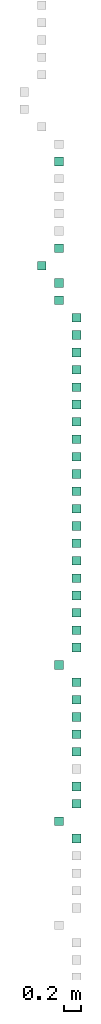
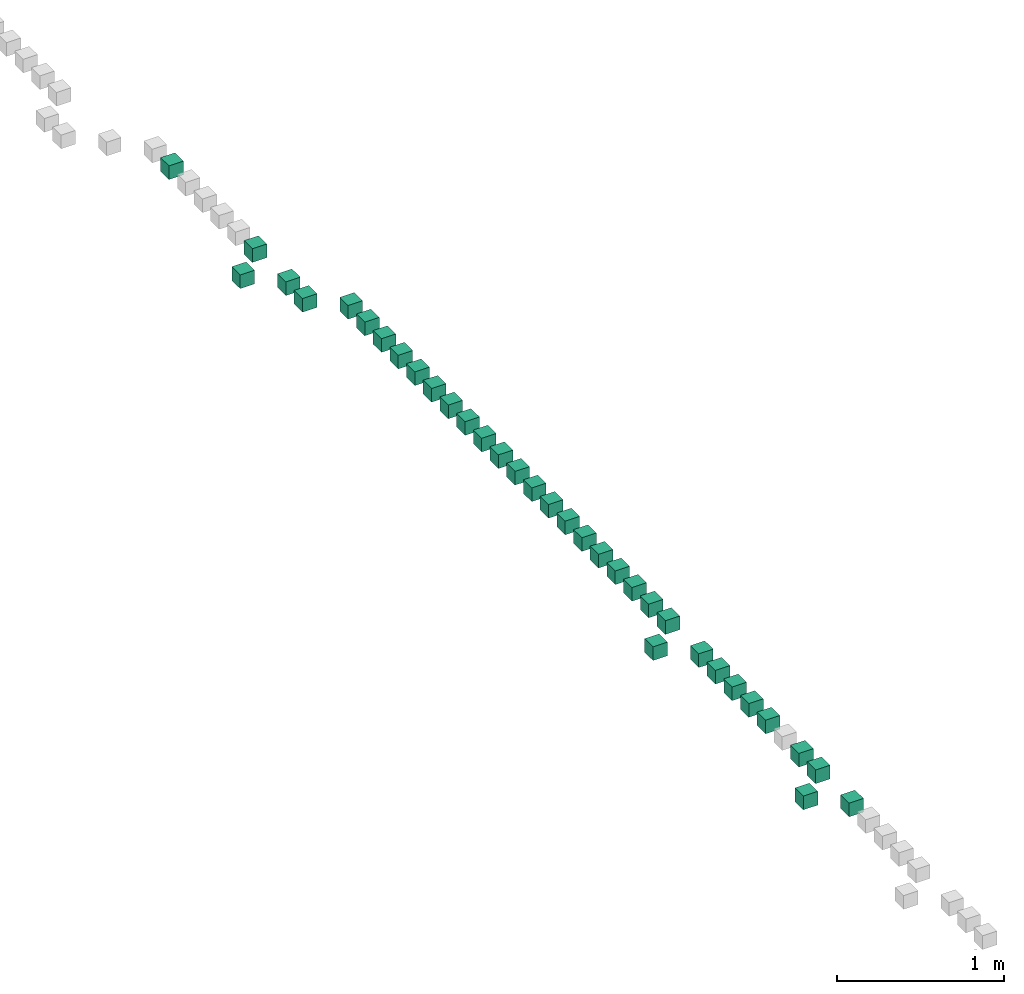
# One storey, part 4 of 7: 1 air terminal box, 1 air to air heat recovery element, 1 alarm, 1 boiler, 1 burner, 1 cable carrier fitting, 1 chiller, 1 coil, 27 other elements.
"""IFC4 building model written with IfcOpenShell, lengths in millimetres."""

from ifc_helpers import new_model, entity, si_unit, converted_unit, derived_unit, direction, frame, origin, origin_2d_with_axis, place, context, subcontext, project, spatial, rectangle, extrude, source, transform, mapped, material, type_object, type_shapes, element, save


model = new_model("IFC4")

# Units and contexts
model_context = context("Model", 3, precision=0.01, world=origin(), true_north=direction((6.12303176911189e-17, 1.0)))
body_context = subcontext(model_context, "Body", "Model", "MODEL_VIEW")
ifc_project = project(units=[si_unit("LENGTHUNIT", "METRE", prefix="MILLI"), si_unit("AREAUNIT", "SQUARE_METRE"), si_unit("VOLUMEUNIT", "CUBIC_METRE"), converted_unit("PLANEANGLEUNIT", "DEGREE", entity("IfcRatioMeasure", 0.0174532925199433), si_unit("PLANEANGLEUNIT", "RADIAN"), dimensions=[0, 0, 0, 0, 0, 0, 0]), si_unit("MASSUNIT", "GRAM", prefix="KILO"), derived_unit("MASSDENSITYUNIT", [(si_unit("MASSUNIT", "GRAM", prefix="KILO"), 1), (si_unit("LENGTHUNIT", "METRE"), -3)]), derived_unit("MOMENTOFINERTIAUNIT", [(si_unit("LENGTHUNIT", "METRE"), 4)]), si_unit("TIMEUNIT", "SECOND"), si_unit("FREQUENCYUNIT", "HERTZ"), si_unit("THERMODYNAMICTEMPERATUREUNIT", "DEGREE_CELSIUS"), derived_unit("THERMALTRANSMITTANCEUNIT", [(si_unit("MASSUNIT", "GRAM", prefix="KILO"), 1), (si_unit("THERMODYNAMICTEMPERATUREUNIT", "KELVIN"), -1), (si_unit("TIMEUNIT", "SECOND"), -3)]), derived_unit("VOLUMETRICFLOWRATEUNIT", [(si_unit("LENGTHUNIT", "METRE"), 3), (si_unit("TIMEUNIT", "SECOND"), -1)]), si_unit("ELECTRICCURRENTUNIT", "AMPERE"), si_unit("ELECTRICVOLTAGEUNIT", "VOLT"), si_unit("POWERUNIT", "WATT"), si_unit("FORCEUNIT", "NEWTON", prefix="KILO"), si_unit("ILLUMINANCEUNIT", "LUX"), si_unit("LUMINOUSFLUXUNIT", "LUMEN"), si_unit("LUMINOUSINTENSITYUNIT", "CANDELA"), derived_unit("USERDEFINED", [(si_unit("MASSUNIT", "GRAM", prefix="KILO"), -1), (si_unit("LENGTHUNIT", "METRE"), -2), (si_unit("TIMEUNIT", "SECOND"), 3), (si_unit("LUMINOUSFLUXUNIT", "LUMEN"), 1)]), derived_unit("LINEARVELOCITYUNIT", [(si_unit("LENGTHUNIT", "METRE"), 1), (si_unit("TIMEUNIT", "SECOND"), -1)]), si_unit("PRESSUREUNIT", "PASCAL"), derived_unit("USERDEFINED", [(si_unit("LENGTHUNIT", "METRE"), -2), (si_unit("MASSUNIT", "GRAM", prefix="KILO"), 1), (si_unit("TIMEUNIT", "SECOND"), -2)]), derived_unit("LINEARFORCEUNIT", [(si_unit("MASSUNIT", "GRAM", prefix="KILO"), 1), (si_unit("LENGTHUNIT", "METRE"), 1), (si_unit("TIMEUNIT", "SECOND"), -2), (si_unit("LENGTHUNIT", "METRE"), -1)]), derived_unit("PLANARFORCEUNIT", [(si_unit("MASSUNIT", "GRAM", prefix="KILO"), 1), (si_unit("LENGTHUNIT", "METRE"), 1), (si_unit("TIMEUNIT", "SECOND"), -2), (si_unit("LENGTHUNIT", "METRE"), -2)])], contexts=[model_context])

# Site, building, storey
site_placement = place(None, origin())
site = spatial("IfcSite", under=ifc_project, at=site_placement, Name="Default", CompositionType="ELEMENT")
building_placement = place(site_placement, origin())
building = spatial("IfcBuilding", under=site, at=building_placement, CompositionType="ELEMENT")
storey_placement = place(building_placement, origin())
storey = spatial("IfcBuildingStorey", under=building, at=storey_placement, Name="Level 1", CompositionType="ELEMENT", Elevation=0.0)

# Distribution flow element
ifc_material = material(Name="<Unnamed>")
distribution_element_type = type_object("IfcDistributionElementType", Name="Generic Ifc Family:Generic Ifc Family", material=ifc_material)
shared_shape_1 = source(origin(), body_context, "Body", "SweptSolid", [
    extrude(rectangle(XDim=100.0, YDim=100.0, at=origin_2d_with_axis()), frame((50.0, 50.0, 0.0), z_axis=(0.0, 0.0, 1.0), x_axis=(0.0, -1.0, 0.0)), (0.0, 0.0, 1.0), 100.0),
])
type_shapes(distribution_element_type, [shared_shape_1])
distribution_flow_element_placement = place(storey_placement, frame((200.0, 17100.0, 0.0), z_axis=(0.0, 0.0, 1.0), x_axis=(0.0, -1.0, 0.0)))
element("IfcDistributionFlowElement", 1, at=distribution_flow_element_placement, inside=storey, type_object=distribution_element_type, material=ifc_material, Name="Generic Ifc Family:Generic Ifc Family", ObjectType="Generic Ifc Family:Generic Ifc Family", context=body_context, shape_type="MappedRepresentation", body=[
    mapped(shared_shape_1, transform((0.0, 0.0, 0.0), scale=1.0)),
])

# Energy conversion device
energy_conversion_device_placement = place(storey_placement, frame((400.0, 16700.0, 0.0), z_axis=(0.0, 0.0, 1.0), x_axis=(0.0, -1.0, 0.0)))
element("IfcEnergyConversionDevice", 2, at=energy_conversion_device_placement, inside=storey, type_object=distribution_element_type, material=ifc_material, Name="Generic Ifc Family:Generic Ifc Family", ObjectType="Generic Ifc Family:Generic Ifc Family", context=body_context, shape_type="MappedRepresentation", body=[
    mapped(shared_shape_1, transform((0.0, 0.0, 0.0), scale=1.0)),
])

# Flow controller
flow_controller_placement = place(storey_placement, frame((400.0, 12500.0, 0.0), z_axis=(0.0, 0.0, 1.0), x_axis=(0.0, -1.0, 0.0)))
element("IfcFlowController", 3, at=flow_controller_placement, inside=storey, type_object=distribution_element_type, material=ifc_material, Name="Generic Ifc Family:Generic Ifc Family", ObjectType="Generic Ifc Family:Generic Ifc Family", context=body_context, shape_type="MappedRepresentation", body=[
    mapped(shared_shape_1, transform((0.0, 0.0, 0.0), scale=1.0)),
])

# Flow fitting
flow_fitting_placement = place(storey_placement, frame((400.0, 10700.0, 0.0), z_axis=(0.0, 0.0, 1.0), x_axis=(0.0, -1.0, 0.0)))
element("IfcFlowFitting", 4, at=flow_fitting_placement, inside=storey, type_object=distribution_element_type, material=ifc_material, Name="Generic Ifc Family:Generic Ifc Family", ObjectType="Generic Ifc Family:Generic Ifc Family", context=body_context, shape_type="MappedRepresentation", body=[
    mapped(shared_shape_1, transform((0.0, 0.0, 0.0), scale=1.0)),
])

# Alarm
alarm_type = type_object("IfcAlarmType", Name="Generic Ifc Family:Generic Ifc Family", PredefinedType="NOTDEFINED", material=ifc_material)
shared_shape_2 = source(origin(), body_context, "Body", "SweptSolid", [
    extrude(rectangle(XDim=100.0, YDim=100.0, at=origin_2d_with_axis()), frame((50.0, 50.0, 0.0), z_axis=(0.0, 0.0, 1.0), x_axis=(0.0, -1.0, 0.0)), (0.0, 0.0, 1.0), 100.0),
])
type_shapes(alarm_type, [shared_shape_2])
alarm_placement = place(storey_placement, frame((400.0, 18300.0, 0.0), z_axis=(0.0, 0.0, 1.0), x_axis=(0.0, -1.0, 0.0)))
element("IfcAlarm", 5, at=alarm_placement, inside=storey, type_object=alarm_type, material=ifc_material, Name="Generic Ifc Family:Generic Ifc Family", ObjectType="Generic Ifc Family:Generic Ifc Family", PredefinedType="NOTDEFINED", context=body_context, shape_type="MappedRepresentation", body=[
    mapped(shared_shape_2, transform((0.0, 0.0, 0.0), scale=1.0)),
])

# Unitary control element
unitary_control_element_type = type_object("IfcUnitaryControlElementType", Name="Generic Ifc Family:Generic Ifc Family", PredefinedType="NOTDEFINED", material=ifc_material)
shared_shape_3 = source(origin(), body_context, "Body", "SweptSolid", [
    extrude(rectangle(XDim=100.0, YDim=100.0, at=origin_2d_with_axis()), frame((50.0, 50.0, 0.0), z_axis=(0.0, 0.0, 1.0), x_axis=(0.0, -1.0, 0.0)), (0.0, 0.0, 1.0), 100.0),
])
type_shapes(unitary_control_element_type, [shared_shape_3])
unitary_control_element_placement = place(storey_placement, frame((400.0, 17300.0, 0.0), z_axis=(0.0, 0.0, 1.0), x_axis=(0.0, -1.0, 0.0)))
element("IfcUnitaryControlElement", 6, at=unitary_control_element_placement, inside=storey, type_object=unitary_control_element_type, material=ifc_material, Name="Generic Ifc Family:Generic Ifc Family", ObjectType="Generic Ifc Family:Generic Ifc Family", PredefinedType="NOTDEFINED", context=body_context, shape_type="MappedRepresentation", body=[
    mapped(shared_shape_3, transform((0.0, 0.0, 0.0), scale=1.0)),
])

# Distribution chamber element
distribution_chamber_element_type = type_object("IfcDistributionChamberElementType", Name="Generic Ifc Family:Generic Ifc Family", PredefinedType="NOTDEFINED", material=ifc_material)
shared_shape_4 = source(origin(), body_context, "Body", "SweptSolid", [
    extrude(rectangle(XDim=100.0, YDim=100.0, at=origin_2d_with_axis()), frame((50.0, 50.0, 0.0), z_axis=(0.0, 0.0, 1.0), x_axis=(0.0, -1.0, 0.0)), (0.0, 0.0, 1.0), 100.0),
])
type_shapes(distribution_chamber_element_type, [shared_shape_4])
distribution_chamber_element_placement = place(storey_placement, frame((400.0, 16900.0, 0.0), z_axis=(0.0, 0.0, 1.0), x_axis=(0.0, -1.0, 0.0)))
element("IfcDistributionChamberElement", 7, at=distribution_chamber_element_placement, inside=storey, type_object=distribution_chamber_element_type, material=ifc_material, Name="Generic Ifc Family:Generic Ifc Family", ObjectType="Generic Ifc Family:Generic Ifc Family", PredefinedType="NOTDEFINED", context=body_context, shape_type="MappedRepresentation", body=[
    mapped(shared_shape_4, transform((0.0, 0.0, 0.0), scale=1.0)),
])

# Air to air heat recovery
air_to_air_heat_recovery_type = type_object("IfcAirToAirHeatRecoveryType", Name="Generic Ifc Family:Generic Ifc Family", PredefinedType="NOTDEFINED", material=ifc_material)
shared_shape_5 = source(origin(), body_context, "Body", "SweptSolid", [
    extrude(rectangle(XDim=100.0, YDim=100.0, at=origin_2d_with_axis()), frame((50.0, 50.0, 0.0), z_axis=(0.0, 0.0, 1.0), x_axis=(0.0, -1.0, 0.0)), (0.0, 0.0, 1.0), 100.0),
])
type_shapes(air_to_air_heat_recovery_type, [shared_shape_5])
air_to_air_heat_recovery_placement = place(storey_placement, frame((600.0, 16500.0, 0.0), z_axis=(0.0, 0.0, 1.0), x_axis=(0.0, -1.0, 0.0)))
element("IfcAirToAirHeatRecovery", 8, at=air_to_air_heat_recovery_placement, inside=storey, type_object=air_to_air_heat_recovery_type, material=ifc_material, Name="Generic Ifc Family:Generic Ifc Family", ObjectType="Generic Ifc Family:Generic Ifc Family", PredefinedType="NOTDEFINED", context=body_context, shape_type="MappedRepresentation", body=[
    mapped(shared_shape_5, transform((0.0, 0.0, 0.0), scale=1.0)),
])

# Boiler
boiler_type = type_object("IfcBoilerType", Name="Generic Ifc Family:Generic Ifc Family", PredefinedType="NOTDEFINED", material=ifc_material)
shared_shape_6 = source(origin(), body_context, "Body", "SweptSolid", [
    extrude(rectangle(XDim=100.0, YDim=100.0, at=origin_2d_with_axis()), frame((50.0, 50.0, 0.0), z_axis=(0.0, 0.0, 1.0), x_axis=(0.0, -1.0, 0.0)), (0.0, 0.0, 1.0), 100.0),
])
type_shapes(boiler_type, [shared_shape_6])
boiler_placement = place(storey_placement, frame((600.0, 16300.0, 0.0), z_axis=(0.0, 0.0, 1.0), x_axis=(0.0, -1.0, 0.0)))
element("IfcBoiler", 9, at=boiler_placement, inside=storey, type_object=boiler_type, material=ifc_material, Name="Generic Ifc Family:Generic Ifc Family", ObjectType="Generic Ifc Family:Generic Ifc Family", PredefinedType="NOTDEFINED", context=body_context, shape_type="MappedRepresentation", body=[
    mapped(shared_shape_6, transform((0.0, 0.0, 0.0), scale=1.0)),
])

# Burner
burner_type = type_object("IfcBurnerType", Name="Generic Ifc Family:Generic Ifc Family", PredefinedType="NOTDEFINED", material=ifc_material)
shared_shape_7 = source(origin(), body_context, "Body", "SweptSolid", [
    extrude(rectangle(XDim=100.0, YDim=100.0, at=origin_2d_with_axis()), frame((50.0, 50.0, 0.0), z_axis=(0.0, 0.0, 1.0), x_axis=(0.0, -1.0, 0.0)), (0.0, 0.0, 1.0), 100.0),
])
type_shapes(burner_type, [shared_shape_7])
burner_placement = place(storey_placement, frame((600.0, 16100.0, 0.0), z_axis=(0.0, 0.0, 1.0), x_axis=(0.0, -1.0, 0.0)))
element("IfcBurner", 10, at=burner_placement, inside=storey, type_object=burner_type, material=ifc_material, Name="Generic Ifc Family:Generic Ifc Family", ObjectType="Generic Ifc Family:Generic Ifc Family", PredefinedType="NOTDEFINED", context=body_context, shape_type="MappedRepresentation", body=[
    mapped(shared_shape_7, transform((0.0, 0.0, 0.0), scale=1.0)),
])

# Chiller
chiller_type = type_object("IfcChillerType", Name="Generic Ifc Family:Generic Ifc Family", PredefinedType="NOTDEFINED", material=ifc_material)
shared_shape_8 = source(origin(), body_context, "Body", "SweptSolid", [
    extrude(rectangle(XDim=100.0, YDim=100.0, at=origin_2d_with_axis()), frame((50.0, 50.0, 0.0), z_axis=(0.0, 0.0, 1.0), x_axis=(0.0, -1.0, 0.0)), (0.0, 0.0, 1.0), 100.0),
])
type_shapes(chiller_type, [shared_shape_8])
chiller_placement = place(storey_placement, frame((600.0, 15900.0, 0.0), z_axis=(0.0, 0.0, 1.0), x_axis=(0.0, -1.0, 0.0)))
element("IfcChiller", 11, at=chiller_placement, inside=storey, type_object=chiller_type, material=ifc_material, Name="Generic Ifc Family:Generic Ifc Family", ObjectType="Generic Ifc Family:Generic Ifc Family", PredefinedType="NOTDEFINED", context=body_context, shape_type="MappedRepresentation", body=[
    mapped(shared_shape_8, transform((0.0, 0.0, 0.0), scale=1.0)),
])

# Coil
coil_type = type_object("IfcCoilType", Name="Generic Ifc Family:Generic Ifc Family", PredefinedType="NOTDEFINED", material=ifc_material)
shared_shape_9 = source(origin(), body_context, "Body", "SweptSolid", [
    extrude(rectangle(XDim=100.0, YDim=100.0, at=origin_2d_with_axis()), frame((50.0, 50.0, 0.0), z_axis=(0.0, 0.0, 1.0), x_axis=(0.0, -1.0, 0.0)), (0.0, 0.0, 1.0), 100.0),
])
type_shapes(coil_type, [shared_shape_9])
coil_placement = place(storey_placement, frame((600.0, 15700.0, 0.0), z_axis=(0.0, 0.0, 1.0), x_axis=(0.0, -1.0, 0.0)))
element("IfcCoil", 12, at=coil_placement, inside=storey, type_object=coil_type, material=ifc_material, Name="Generic Ifc Family:Generic Ifc Family", ObjectType="Generic Ifc Family:Generic Ifc Family", PredefinedType="NOTDEFINED", context=body_context, shape_type="MappedRepresentation", body=[
    mapped(shared_shape_9, transform((0.0, 0.0, 0.0), scale=1.0)),
])

# Condenser
condenser_type = type_object("IfcCondenserType", Name="Generic Ifc Family:Generic Ifc Family", PredefinedType="NOTDEFINED", material=ifc_material)
shared_shape_10 = source(origin(), body_context, "Body", "SweptSolid", [
    extrude(rectangle(XDim=100.0, YDim=100.0, at=origin_2d_with_axis()), frame((50.0, 50.0, 0.0), z_axis=(0.0, 0.0, 1.0), x_axis=(0.0, -1.0, 0.0)), (0.0, 0.0, 1.0), 100.0),
])
type_shapes(condenser_type, [shared_shape_10])
condenser_placement = place(storey_placement, frame((600.0, 15500.0, 0.0), z_axis=(0.0, 0.0, 1.0), x_axis=(0.0, -1.0, 0.0)))
element("IfcCondenser", 13, at=condenser_placement, inside=storey, type_object=condenser_type, material=ifc_material, Name="Generic Ifc Family:Generic Ifc Family", ObjectType="Generic Ifc Family:Generic Ifc Family", PredefinedType="NOTDEFINED", context=body_context, shape_type="MappedRepresentation", body=[
    mapped(shared_shape_10, transform((0.0, 0.0, 0.0), scale=1.0)),
])

# Cooled beam
cooled_beam_type = type_object("IfcCooledBeamType", Name="Generic Ifc Family:Generic Ifc Family", PredefinedType="NOTDEFINED", material=ifc_material)
shared_shape_11 = source(origin(), body_context, "Body", "SweptSolid", [
    extrude(rectangle(XDim=100.0, YDim=100.0, at=origin_2d_with_axis()), frame((50.0, 50.0, 0.0), z_axis=(0.0, 0.0, 1.0), x_axis=(0.0, -1.0, 0.0)), (0.0, 0.0, 1.0), 100.0),
])
type_shapes(cooled_beam_type, [shared_shape_11])
cooled_beam_placement = place(storey_placement, frame((600.0, 15300.0, 0.0), z_axis=(0.0, 0.0, 1.0), x_axis=(0.0, -1.0, 0.0)))
element("IfcCooledBeam", 14, at=cooled_beam_placement, inside=storey, type_object=cooled_beam_type, material=ifc_material, Name="Generic Ifc Family:Generic Ifc Family", ObjectType="Generic Ifc Family:Generic Ifc Family", PredefinedType="NOTDEFINED", context=body_context, shape_type="MappedRepresentation", body=[
    mapped(shared_shape_11, transform((0.0, 0.0, 0.0), scale=1.0)),
])

# Cooling tower
cooling_tower_type = type_object("IfcCoolingTowerType", Name="Generic Ifc Family:Generic Ifc Family", PredefinedType="NOTDEFINED", material=ifc_material)
shared_shape_12 = source(origin(), body_context, "Body", "SweptSolid", [
    extrude(rectangle(XDim=100.0, YDim=100.0, at=origin_2d_with_axis()), frame((50.0, 50.0, 0.0), z_axis=(0.0, 0.0, 1.0), x_axis=(0.0, -1.0, 0.0)), (0.0, 0.0, 1.0), 100.0),
])
type_shapes(cooling_tower_type, [shared_shape_12])
cooling_tower_placement = place(storey_placement, frame((600.0, 15100.0, 0.0), z_axis=(0.0, 0.0, 1.0), x_axis=(0.0, -1.0, 0.0)))
element("IfcCoolingTower", 15, at=cooling_tower_placement, inside=storey, type_object=cooling_tower_type, material=ifc_material, Name="Generic Ifc Family:Generic Ifc Family", ObjectType="Generic Ifc Family:Generic Ifc Family", PredefinedType="NOTDEFINED", context=body_context, shape_type="MappedRepresentation", body=[
    mapped(shared_shape_12, transform((0.0, 0.0, 0.0), scale=1.0)),
])

# Electric generator
electric_generator_type = type_object("IfcElectricGeneratorType", Name="Generic Ifc Family:Generic Ifc Family", PredefinedType="NOTDEFINED", material=ifc_material)
shared_shape_13 = source(origin(), body_context, "Body", "SweptSolid", [
    extrude(rectangle(XDim=100.0, YDim=100.0, at=origin_2d_with_axis()), frame((50.0, 50.0, 0.0), z_axis=(0.0, 0.0, 1.0), x_axis=(0.0, -1.0, 0.0)), (0.0, 0.0, 1.0), 100.0),
])
type_shapes(electric_generator_type, [shared_shape_13])
electric_generator_placement = place(storey_placement, frame((600.0, 14900.0, 0.0), z_axis=(0.0, 0.0, 1.0), x_axis=(0.0, -1.0, 0.0)))
element("IfcElectricGenerator", 16, at=electric_generator_placement, inside=storey, type_object=electric_generator_type, material=ifc_material, Name="Generic Ifc Family:Generic Ifc Family", ObjectType="Generic Ifc Family:Generic Ifc Family", PredefinedType="NOTDEFINED", context=body_context, shape_type="MappedRepresentation", body=[
    mapped(shared_shape_13, transform((0.0, 0.0, 0.0), scale=1.0)),
])

# Electric motor
electric_motor_type = type_object("IfcElectricMotorType", Name="Generic Ifc Family:Generic Ifc Family", PredefinedType="NOTDEFINED", material=ifc_material)
shared_shape_14 = source(origin(), body_context, "Body", "SweptSolid", [
    extrude(rectangle(XDim=100.0, YDim=100.0, at=origin_2d_with_axis()), frame((50.0, 50.0, 0.0), z_axis=(0.0, 0.0, 1.0), x_axis=(0.0, -1.0, 0.0)), (0.0, 0.0, 1.0), 100.0),
])
type_shapes(electric_motor_type, [shared_shape_14])
electric_motor_placement = place(storey_placement, frame((600.0, 14700.0, 0.0), z_axis=(0.0, 0.0, 1.0), x_axis=(0.0, -1.0, 0.0)))
element("IfcElectricMotor", 17, at=electric_motor_placement, inside=storey, type_object=electric_motor_type, material=ifc_material, Name="Generic Ifc Family:Generic Ifc Family", ObjectType="Generic Ifc Family:Generic Ifc Family", PredefinedType="NOTDEFINED", context=body_context, shape_type="MappedRepresentation", body=[
    mapped(shared_shape_14, transform((0.0, 0.0, 0.0), scale=1.0)),
])

# Engine
engine_type = type_object("IfcEngineType", Name="Generic Ifc Family:Generic Ifc Family", PredefinedType="NOTDEFINED", material=ifc_material)
shared_shape_15 = source(origin(), body_context, "Body", "SweptSolid", [
    extrude(rectangle(XDim=100.0, YDim=100.0, at=origin_2d_with_axis()), frame((50.0, 50.0, 0.0), z_axis=(0.0, 0.0, 1.0), x_axis=(0.0, -1.0, 0.0)), (0.0, 0.0, 1.0), 100.0),
])
type_shapes(engine_type, [shared_shape_15])
engine_placement = place(storey_placement, frame((600.0, 14500.0, 0.0), z_axis=(0.0, 0.0, 1.0), x_axis=(0.0, -1.0, 0.0)))
element("IfcEngine", 18, at=engine_placement, inside=storey, type_object=engine_type, material=ifc_material, Name="Generic Ifc Family:Generic Ifc Family", ObjectType="Generic Ifc Family:Generic Ifc Family", PredefinedType="NOTDEFINED", context=body_context, shape_type="MappedRepresentation", body=[
    mapped(shared_shape_15, transform((0.0, 0.0, 0.0), scale=1.0)),
])

# Evaporative cooler
evaporative_cooler_type = type_object("IfcEvaporativeCoolerType", Name="Generic Ifc Family:Generic Ifc Family", PredefinedType="NOTDEFINED", material=ifc_material)
shared_shape_16 = source(origin(), body_context, "Body", "SweptSolid", [
    extrude(rectangle(XDim=100.0, YDim=100.0, at=origin_2d_with_axis()), frame((50.0, 50.0, 0.0), z_axis=(0.0, 0.0, 1.0), x_axis=(0.0, -1.0, 0.0)), (0.0, 0.0, 1.0), 100.0),
])
type_shapes(evaporative_cooler_type, [shared_shape_16])
evaporative_cooler_placement = place(storey_placement, frame((600.0, 14300.0, 0.0), z_axis=(0.0, 0.0, 1.0), x_axis=(0.0, -1.0, 0.0)))
element("IfcEvaporativeCooler", 19, at=evaporative_cooler_placement, inside=storey, type_object=evaporative_cooler_type, material=ifc_material, Name="Generic Ifc Family:Generic Ifc Family", ObjectType="Generic Ifc Family:Generic Ifc Family", PredefinedType="NOTDEFINED", context=body_context, shape_type="MappedRepresentation", body=[
    mapped(shared_shape_16, transform((0.0, 0.0, 0.0), scale=1.0)),
])

# Evaporator
evaporator_type = type_object("IfcEvaporatorType", Name="Generic Ifc Family:Generic Ifc Family", PredefinedType="NOTDEFINED", material=ifc_material)
shared_shape_17 = source(origin(), body_context, "Body", "SweptSolid", [
    extrude(rectangle(XDim=100.0, YDim=100.0, at=origin_2d_with_axis()), frame((50.0, 50.0, 0.0), z_axis=(0.0, 0.0, 1.0), x_axis=(0.0, -1.0, 0.0)), (0.0, 0.0, 1.0), 100.0),
])
type_shapes(evaporator_type, [shared_shape_17])
evaporator_placement = place(storey_placement, frame((600.0, 14100.0, 0.0), z_axis=(0.0, 0.0, 1.0), x_axis=(0.0, -1.0, 0.0)))
element("IfcEvaporator", 20, at=evaporator_placement, inside=storey, type_object=evaporator_type, material=ifc_material, Name="Generic Ifc Family:Generic Ifc Family", ObjectType="Generic Ifc Family:Generic Ifc Family", PredefinedType="NOTDEFINED", context=body_context, shape_type="MappedRepresentation", body=[
    mapped(shared_shape_17, transform((0.0, 0.0, 0.0), scale=1.0)),
])

# Heat exchanger
heat_exchanger_type = type_object("IfcHeatExchangerType", Name="Generic Ifc Family:Generic Ifc Family", PredefinedType="NOTDEFINED", material=ifc_material)
shared_shape_18 = source(origin(), body_context, "Body", "SweptSolid", [
    extrude(rectangle(XDim=100.0, YDim=100.0, at=origin_2d_with_axis()), frame((50.0, 50.0, 0.0), z_axis=(0.0, 0.0, 1.0), x_axis=(0.0, -1.0, 0.0)), (0.0, 0.0, 1.0), 100.0),
])
type_shapes(heat_exchanger_type, [shared_shape_18])
heat_exchanger_placement = place(storey_placement, frame((600.0, 13900.0, 0.0), z_axis=(0.0, 0.0, 1.0), x_axis=(0.0, -1.0, 0.0)))
element("IfcHeatExchanger", 21, at=heat_exchanger_placement, inside=storey, type_object=heat_exchanger_type, material=ifc_material, Name="Generic Ifc Family:Generic Ifc Family", ObjectType="Generic Ifc Family:Generic Ifc Family", PredefinedType="NOTDEFINED", context=body_context, shape_type="MappedRepresentation", body=[
    mapped(shared_shape_18, transform((0.0, 0.0, 0.0), scale=1.0)),
])

# Humidifier
humidifier_type = type_object("IfcHumidifierType", Name="Generic Ifc Family:Generic Ifc Family", PredefinedType="NOTDEFINED", material=ifc_material)
shared_shape_19 = source(origin(), body_context, "Body", "SweptSolid", [
    extrude(rectangle(XDim=100.0, YDim=100.0, at=origin_2d_with_axis()), frame((50.0, 50.0, 0.0), z_axis=(0.0, 0.0, 1.0), x_axis=(0.0, -1.0, 0.0)), (0.0, 0.0, 1.0), 100.0),
])
type_shapes(humidifier_type, [shared_shape_19])
humidifier_placement = place(storey_placement, frame((600.0, 13700.0, 0.0), z_axis=(0.0, 0.0, 1.0), x_axis=(0.0, -1.0, 0.0)))
element("IfcHumidifier", 22, at=humidifier_placement, inside=storey, type_object=humidifier_type, material=ifc_material, Name="Generic Ifc Family:Generic Ifc Family", ObjectType="Generic Ifc Family:Generic Ifc Family", PredefinedType="NOTDEFINED", context=body_context, shape_type="MappedRepresentation", body=[
    mapped(shared_shape_19, transform((0.0, 0.0, 0.0), scale=1.0)),
])

# Motor connection
motor_connection_type = type_object("IfcMotorConnectionType", Name="Generic Ifc Family:Generic Ifc Family", PredefinedType="NOTDEFINED", material=ifc_material)
shared_shape_20 = source(origin(), body_context, "Body", "SweptSolid", [
    extrude(rectangle(XDim=100.0, YDim=100.0, at=origin_2d_with_axis()), frame((50.0, 50.0, 0.0), z_axis=(0.0, 0.0, 1.0), x_axis=(0.0, -1.0, 0.0)), (0.0, 0.0, 1.0), 100.0),
])
type_shapes(motor_connection_type, [shared_shape_20])
motor_connection_placement = place(storey_placement, frame((600.0, 13500.0, 0.0), z_axis=(0.0, 0.0, 1.0), x_axis=(0.0, -1.0, 0.0)))
element("IfcMotorConnection", 23, at=motor_connection_placement, inside=storey, type_object=motor_connection_type, material=ifc_material, Name="Generic Ifc Family:Generic Ifc Family", ObjectType="Generic Ifc Family:Generic Ifc Family", PredefinedType="NOTDEFINED", context=body_context, shape_type="MappedRepresentation", body=[
    mapped(shared_shape_20, transform((0.0, 0.0, 0.0), scale=1.0)),
])

# Solar device
solar_device_type = type_object("IfcSolarDeviceType", Name="Generic Ifc Family:Generic Ifc Family", PredefinedType="NOTDEFINED", material=ifc_material)
shared_shape_21 = source(origin(), body_context, "Body", "SweptSolid", [
    extrude(rectangle(XDim=100.0, YDim=100.0, at=origin_2d_with_axis()), frame((50.0, 50.0, 0.0), z_axis=(0.0, 0.0, 1.0), x_axis=(0.0, -1.0, 0.0)), (0.0, 0.0, 1.0), 100.0),
])
type_shapes(solar_device_type, [shared_shape_21])
solar_device_placement = place(storey_placement, frame((600.0, 13300.0, 0.0), z_axis=(0.0, 0.0, 1.0), x_axis=(0.0, -1.0, 0.0)))
element("IfcSolarDevice", 24, at=solar_device_placement, inside=storey, type_object=solar_device_type, material=ifc_material, Name="Generic Ifc Family:Generic Ifc Family", ObjectType="Generic Ifc Family:Generic Ifc Family", PredefinedType="NOTDEFINED", context=body_context, shape_type="MappedRepresentation", body=[
    mapped(shared_shape_21, transform((0.0, 0.0, 0.0), scale=1.0)),
])

# Transformer
transformer_type = type_object("IfcTransformerType", Name="Generic Ifc Family:Generic Ifc Family", PredefinedType="NOTDEFINED", material=ifc_material)
shared_shape_22 = source(origin(), body_context, "Body", "SweptSolid", [
    extrude(rectangle(XDim=100.0, YDim=100.0, at=origin_2d_with_axis()), frame((50.0, 50.0, 0.0), z_axis=(0.0, 0.0, 1.0), x_axis=(0.0, -1.0, 0.0)), (0.0, 0.0, 1.0), 100.0),
])
type_shapes(transformer_type, [shared_shape_22])
transformer_placement = place(storey_placement, frame((600.0, 13100.0, 0.0), z_axis=(0.0, 0.0, 1.0), x_axis=(0.0, -1.0, 0.0)))
element("IfcTransformer", 25, at=transformer_placement, inside=storey, type_object=transformer_type, material=ifc_material, Name="Generic Ifc Family:Generic Ifc Family", ObjectType="Generic Ifc Family:Generic Ifc Family", PredefinedType="NOTDEFINED", context=body_context, shape_type="MappedRepresentation", body=[
    mapped(shared_shape_22, transform((0.0, 0.0, 0.0), scale=1.0)),
])

# Tube bundle
tube_bundle_type = type_object("IfcTubeBundleType", Name="Generic Ifc Family:Generic Ifc Family", PredefinedType="NOTDEFINED", material=ifc_material)
shared_shape_23 = source(origin(), body_context, "Body", "SweptSolid", [
    extrude(rectangle(XDim=100.0, YDim=100.0, at=origin_2d_with_axis()), frame((50.0, 50.0, 0.0), z_axis=(0.0, 0.0, 1.0), x_axis=(0.0, -1.0, 0.0)), (0.0, 0.0, 1.0), 100.0),
])
type_shapes(tube_bundle_type, [shared_shape_23])
tube_bundle_placement = place(storey_placement, frame((600.0, 12900.0, 0.0), z_axis=(0.0, 0.0, 1.0), x_axis=(0.0, -1.0, 0.0)))
element("IfcTubeBundle", 26, at=tube_bundle_placement, inside=storey, type_object=tube_bundle_type, material=ifc_material, Name="Generic Ifc Family:Generic Ifc Family", ObjectType="Generic Ifc Family:Generic Ifc Family", PredefinedType="NOTDEFINED", context=body_context, shape_type="MappedRepresentation", body=[
    mapped(shared_shape_23, transform((0.0, 0.0, 0.0), scale=1.0)),
])

# Unitary equipment
unitary_equipment_type = type_object("IfcUnitaryEquipmentType", Name="Generic Ifc Family:Generic Ifc Family", PredefinedType="NOTDEFINED", material=ifc_material)
shared_shape_24 = source(origin(), body_context, "Body", "SweptSolid", [
    extrude(rectangle(XDim=100.0, YDim=100.0, at=origin_2d_with_axis()), frame((50.0, 50.0, 0.0), z_axis=(0.0, 0.0, 1.0), x_axis=(0.0, -1.0, 0.0)), (0.0, 0.0, 1.0), 100.0),
])
type_shapes(unitary_equipment_type, [shared_shape_24])
unitary_equipment_placement = place(storey_placement, frame((600.0, 12700.0, 0.0), z_axis=(0.0, 0.0, 1.0), x_axis=(0.0, -1.0, 0.0)))
element("IfcUnitaryEquipment", 27, at=unitary_equipment_placement, inside=storey, type_object=unitary_equipment_type, material=ifc_material, Name="Generic Ifc Family:Generic Ifc Family", ObjectType="Generic Ifc Family:Generic Ifc Family", PredefinedType="NOTDEFINED", context=body_context, shape_type="MappedRepresentation", body=[
    mapped(shared_shape_24, transform((0.0, 0.0, 0.0), scale=1.0)),
])

# Air terminal box
air_terminal_box_type = type_object("IfcAirTerminalBoxType", Name="Generic Ifc Family:Generic Ifc Family", PredefinedType="NOTDEFINED", material=ifc_material)
shared_shape_25 = source(origin(), body_context, "Body", "SweptSolid", [
    extrude(rectangle(XDim=100.0, YDim=100.0, at=origin_2d_with_axis()), frame((50.0, 50.0, 0.0), z_axis=(0.0, 0.0, 1.0), x_axis=(0.0, -1.0, 0.0)), (0.0, 0.0, 1.0), 100.0),
])
type_shapes(air_terminal_box_type, [shared_shape_25])
air_terminal_box_placement = place(storey_placement, frame((600.0, 12300.0, 0.0), z_axis=(0.0, 0.0, 1.0), x_axis=(0.0, -1.0, 0.0)))
element("IfcAirTerminalBox", 28, at=air_terminal_box_placement, inside=storey, type_object=air_terminal_box_type, material=ifc_material, Name="Generic Ifc Family:Generic Ifc Family", ObjectType="Generic Ifc Family:Generic Ifc Family", PredefinedType="NOTDEFINED", context=body_context, shape_type="MappedRepresentation", body=[
    mapped(shared_shape_25, transform((0.0, 0.0, 0.0), scale=1.0)),
])

# Damper
damper_type = type_object("IfcDamperType", Name="Generic Ifc Family:Generic Ifc Family", PredefinedType="NOTDEFINED", material=ifc_material)
shared_shape_26 = source(origin(), body_context, "Body", "SweptSolid", [
    extrude(rectangle(XDim=100.0, YDim=100.0, at=origin_2d_with_axis()), frame((50.0, 50.0, 0.0), z_axis=(0.0, 0.0, 1.0), x_axis=(0.0, -1.0, 0.0)), (0.0, 0.0, 1.0), 100.0),
])
type_shapes(damper_type, [shared_shape_26])
damper_placement = place(storey_placement, frame((600.0, 12100.0, 0.0), z_axis=(0.0, 0.0, 1.0), x_axis=(0.0, -1.0, 0.0)))
element("IfcDamper", 29, at=damper_placement, inside=storey, type_object=damper_type, material=ifc_material, Name="Generic Ifc Family:Generic Ifc Family", ObjectType="Generic Ifc Family:Generic Ifc Family", PredefinedType="NOTDEFINED", context=body_context, shape_type="MappedRepresentation", body=[
    mapped(shared_shape_26, transform((0.0, 0.0, 0.0), scale=1.0)),
])

# Electric distribution board
electric_distribution_board_type = type_object("IfcElectricDistributionBoardType", Name="Generic Ifc Family:Generic Ifc Family", PredefinedType="NOTDEFINED", material=ifc_material)
shared_shape_27 = source(origin(), body_context, "Body", "SweptSolid", [
    extrude(rectangle(XDim=100.0, YDim=100.0, at=origin_2d_with_axis()), frame((50.0, 50.0, 0.0), z_axis=(0.0, 0.0, 1.0), x_axis=(0.0, -1.0, 0.0)), (0.0, 0.0, 1.0), 100.0),
])
type_shapes(electric_distribution_board_type, [shared_shape_27])
electric_distribution_board_placement = place(storey_placement, frame((600.0, 11900.0, 0.0), z_axis=(0.0, 0.0, 1.0), x_axis=(0.0, -1.0, 0.0)))
element("IfcElectricDistributionBoard", 30, at=electric_distribution_board_placement, inside=storey, type_object=electric_distribution_board_type, material=ifc_material, Name="Generic Ifc Family:Generic Ifc Family", ObjectType="Generic Ifc Family:Generic Ifc Family", PredefinedType="NOTDEFINED", context=body_context, shape_type="MappedRepresentation", body=[
    mapped(shared_shape_27, transform((0.0, 0.0, 0.0), scale=1.0)),
])

# Electric time control
electric_time_control_type = type_object("IfcElectricTimeControlType", Name="Generic Ifc Family:Generic Ifc Family", PredefinedType="NOTDEFINED", material=ifc_material)
shared_shape_28 = source(origin(), body_context, "Body", "SweptSolid", [
    extrude(rectangle(XDim=100.0, YDim=100.0, at=origin_2d_with_axis()), frame((50.0, 50.0, 0.0), z_axis=(0.0, 0.0, 1.0), x_axis=(0.0, -1.0, 0.0)), (0.0, 0.0, 1.0), 100.0),
])
type_shapes(electric_time_control_type, [shared_shape_28])
electric_time_control_placement = place(storey_placement, frame((600.0, 11700.0, 0.0), z_axis=(0.0, 0.0, 1.0), x_axis=(0.0, -1.0, 0.0)))
element("IfcElectricTimeControl", 31, at=electric_time_control_placement, inside=storey, type_object=electric_time_control_type, material=ifc_material, Name="Generic Ifc Family:Generic Ifc Family", ObjectType="Generic Ifc Family:Generic Ifc Family", PredefinedType="NOTDEFINED", context=body_context, shape_type="MappedRepresentation", body=[
    mapped(shared_shape_28, transform((0.0, 0.0, 0.0), scale=1.0)),
])

# Flow meter
flow_meter_type = type_object("IfcFlowMeterType", Name="Generic Ifc Family:Generic Ifc Family", PredefinedType="NOTDEFINED", material=ifc_material)
shared_shape_29 = source(origin(), body_context, "Body", "SweptSolid", [
    extrude(rectangle(XDim=100.0, YDim=100.0, at=origin_2d_with_axis()), frame((50.0, 50.0, 0.0), z_axis=(0.0, 0.0, 1.0), x_axis=(0.0, -1.0, 0.0)), (0.0, 0.0, 1.0), 100.0),
])
type_shapes(flow_meter_type, [shared_shape_29])
flow_meter_placement = place(storey_placement, frame((600.0, 11500.0, 0.0), z_axis=(0.0, 0.0, 1.0), x_axis=(0.0, -1.0, 0.0)))
element("IfcFlowMeter", 32, at=flow_meter_placement, inside=storey, type_object=flow_meter_type, material=ifc_material, Name="Generic Ifc Family:Generic Ifc Family", ObjectType="Generic Ifc Family:Generic Ifc Family", PredefinedType="NOTDEFINED", context=body_context, shape_type="MappedRepresentation", body=[
    mapped(shared_shape_29, transform((0.0, 0.0, 0.0), scale=1.0)),
])

# Switching device
switching_device_type = type_object("IfcSwitchingDeviceType", Name="Generic Ifc Family:Generic Ifc Family", PredefinedType="NOTDEFINED", material=ifc_material)
shared_shape_30 = source(origin(), body_context, "Body", "SweptSolid", [
    extrude(rectangle(XDim=100.0, YDim=100.0, at=origin_2d_with_axis()), frame((50.0, 50.0, 0.0), z_axis=(0.0, 0.0, 1.0), x_axis=(0.0, -1.0, 0.0)), (0.0, 0.0, 1.0), 100.0),
])
type_shapes(switching_device_type, [shared_shape_30])
switching_device_placement = place(storey_placement, frame((600.0, 11100.0, 0.0), z_axis=(0.0, 0.0, 1.0), x_axis=(0.0, -1.0, 0.0)))
element("IfcSwitchingDevice", 33, at=switching_device_placement, inside=storey, type_object=switching_device_type, material=ifc_material, Name="Generic Ifc Family:Generic Ifc Family", ObjectType="Generic Ifc Family:Generic Ifc Family", PredefinedType="NOTDEFINED", context=body_context, shape_type="MappedRepresentation", body=[
    mapped(shared_shape_30, transform((0.0, 0.0, 0.0), scale=1.0)),
])

# Valve
valve_type = type_object("IfcValveType", Name="Generic Ifc Family:Generic Ifc Family", PredefinedType="NOTDEFINED", material=ifc_material)
shared_shape_31 = source(origin(), body_context, "Body", "SweptSolid", [
    extrude(rectangle(XDim=100.0, YDim=100.0, at=origin_2d_with_axis()), frame((50.0, 50.0, 0.0), z_axis=(0.0, 0.0, 1.0), x_axis=(0.0, -1.0, 0.0)), (0.0, 0.0, 1.0), 100.0),
])
type_shapes(valve_type, [shared_shape_31])
valve_placement = place(storey_placement, frame((600.0, 10900.0, 0.0), z_axis=(0.0, 0.0, 1.0), x_axis=(0.0, -1.0, 0.0)))
element("IfcValve", 34, at=valve_placement, inside=storey, type_object=valve_type, material=ifc_material, Name="Generic Ifc Family:Generic Ifc Family", ObjectType="Generic Ifc Family:Generic Ifc Family", PredefinedType="NOTDEFINED", context=body_context, shape_type="MappedRepresentation", body=[
    mapped(shared_shape_31, transform((0.0, 0.0, 0.0), scale=1.0)),
])

# Cable carrier fitting
cable_carrier_fitting_type = type_object("IfcCableCarrierFittingType", Name="Generic Ifc Family:Generic Ifc Family", PredefinedType="NOTDEFINED", material=ifc_material)
shared_shape_32 = source(origin(), body_context, "Body", "SweptSolid", [
    extrude(rectangle(XDim=100.0, YDim=100.0, at=origin_2d_with_axis()), frame((50.0, 50.0, 0.0), z_axis=(0.0, 0.0, 1.0), x_axis=(0.0, -1.0, 0.0)), (0.0, 0.0, 1.0), 100.0),
])
type_shapes(cable_carrier_fitting_type, [shared_shape_32])
cable_carrier_fitting_placement = place(storey_placement, frame((600.0, 10500.0, 0.0), z_axis=(0.0, 0.0, 1.0), x_axis=(0.0, -1.0, 0.0)))
element("IfcCableCarrierFitting", 35, at=cable_carrier_fitting_placement, inside=storey, type_object=cable_carrier_fitting_type, material=ifc_material, Name="Generic Ifc Family:Generic Ifc Family", ObjectType="Generic Ifc Family:Generic Ifc Family", PredefinedType="NOTDEFINED", context=body_context, shape_type="MappedRepresentation", body=[
    mapped(shared_shape_32, transform((0.0, 0.0, 0.0), scale=1.0)),
])

save(model, "model.ifc")
